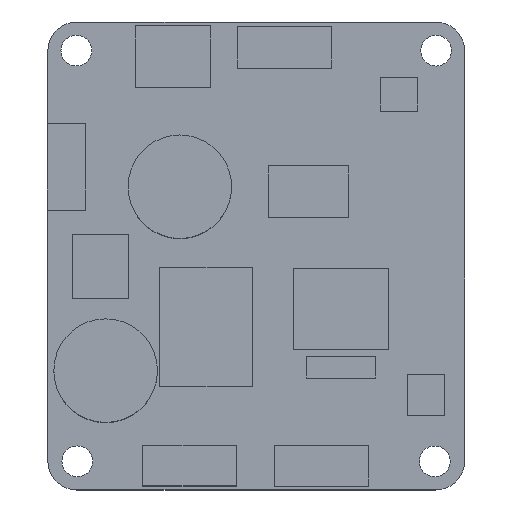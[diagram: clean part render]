
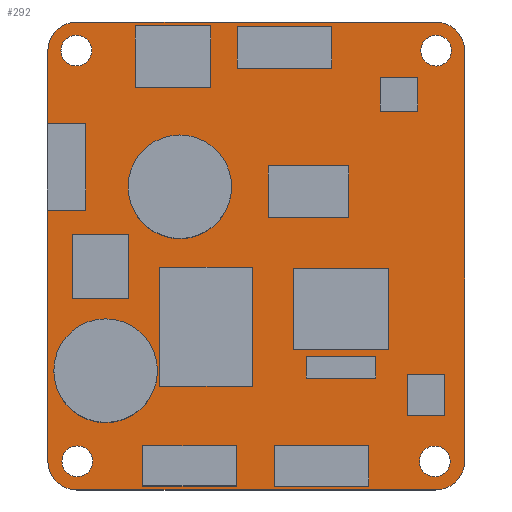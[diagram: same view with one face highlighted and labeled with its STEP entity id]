
A CAD part, top view. The second image highlights one B-rep face of the part: STEP entity #292.
In plain terms, the highlighted planar face has unit normal (0, 0, 1).
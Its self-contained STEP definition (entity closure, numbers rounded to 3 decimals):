
#98 = VERTEX_POINT('',#99);
#99 = CARTESIAN_POINT('',(3.,0.,1.6));
#105 = EDGE_CURVE('',#98,#106,#108,.T.);
#106 = VERTEX_POINT('',#107);
#107 = CARTESIAN_POINT('',(40.307,0.,1.6));
#108 = LINE('',#109,#110);
#109 = CARTESIAN_POINT('',(3.,0.,1.6));
#110 = VECTOR('',#111,1.);
#111 = DIRECTION('',(1.,0.,0.));
#138 = VERTEX_POINT('',#139);
#139 = CARTESIAN_POINT('',(0.,3.,1.6));
#145 = EDGE_CURVE('',#138,#98,#146,.T.);
#146 = CIRCLE('',#147,3.);
#147 = AXIS2_PLACEMENT_3D('',#148,#149,#150);
#148 = CARTESIAN_POINT('',(3.,3.,1.6));
#149 = DIRECTION('',(0.,0.,1.));
#150 = DIRECTION('',(-1.,0.,0.));
#169 = EDGE_CURVE('',#106,#170,#172,.T.);
#170 = VERTEX_POINT('',#171);
#171 = CARTESIAN_POINT('',(43.307,3.,1.6));
#172 = CIRCLE('',#173,3.);
#173 = AXIS2_PLACEMENT_3D('',#174,#175,#176);
#174 = CARTESIAN_POINT('',(40.307,3.,1.6));
#175 = DIRECTION('',(0.,0.,1.));
#176 = DIRECTION('',(0.,-1.,0.));
#292 = ADVANCED_FACE('',(#293,#338,#349,#360,#371),#382,.T.);
#293 = FACE_BOUND('',#294,.T.);
#294 = EDGE_LOOP('',(#295,#296,#297,#305,#314,#322,#331,#337));
#295 = ORIENTED_EDGE('',*,*,#105,.T.);
#296 = ORIENTED_EDGE('',*,*,#169,.T.);
#297 = ORIENTED_EDGE('',*,*,#298,.T.);
#298 = EDGE_CURVE('',#170,#299,#301,.T.);
#299 = VERTEX_POINT('',#300);
#300 = CARTESIAN_POINT('',(43.307,45.641,1.6));
#301 = LINE('',#302,#303);
#302 = CARTESIAN_POINT('',(43.307,3.,1.6));
#303 = VECTOR('',#304,1.);
#304 = DIRECTION('',(0.,1.,0.));
#305 = ORIENTED_EDGE('',*,*,#306,.T.);
#306 = EDGE_CURVE('',#299,#307,#309,.T.);
#307 = VERTEX_POINT('',#308);
#308 = CARTESIAN_POINT('',(40.307,48.641,1.6));
#309 = CIRCLE('',#310,3.);
#310 = AXIS2_PLACEMENT_3D('',#311,#312,#313);
#311 = CARTESIAN_POINT('',(40.307,45.641,1.6));
#312 = DIRECTION('',(-0.,0.,1.));
#313 = DIRECTION('',(1.,0.,0.));
#314 = ORIENTED_EDGE('',*,*,#315,.T.);
#315 = EDGE_CURVE('',#307,#316,#318,.T.);
#316 = VERTEX_POINT('',#317);
#317 = CARTESIAN_POINT('',(3.,48.641,1.6));
#318 = LINE('',#319,#320);
#319 = CARTESIAN_POINT('',(40.307,48.641,1.6));
#320 = VECTOR('',#321,1.);
#321 = DIRECTION('',(-1.,0.,0.));
#322 = ORIENTED_EDGE('',*,*,#323,.T.);
#323 = EDGE_CURVE('',#316,#324,#326,.T.);
#324 = VERTEX_POINT('',#325);
#325 = CARTESIAN_POINT('',(0.,45.641,1.6));
#326 = CIRCLE('',#327,3.);
#327 = AXIS2_PLACEMENT_3D('',#328,#329,#330);
#328 = CARTESIAN_POINT('',(3.,45.641,1.6));
#329 = DIRECTION('',(0.,-0.,1.));
#330 = DIRECTION('',(0.,1.,0.));
#331 = ORIENTED_EDGE('',*,*,#332,.T.);
#332 = EDGE_CURVE('',#324,#138,#333,.T.);
#333 = LINE('',#334,#335);
#334 = CARTESIAN_POINT('',(0.,45.641,1.6));
#335 = VECTOR('',#336,1.);
#336 = DIRECTION('',(0.,-1.,0.));
#337 = ORIENTED_EDGE('',*,*,#145,.T.);
#338 = FACE_BOUND('',#339,.T.);
#339 = EDGE_LOOP('',(#340));
#340 = ORIENTED_EDGE('',*,*,#341,.F.);
#341 = EDGE_CURVE('',#342,#342,#344,.T.);
#342 = VERTEX_POINT('',#343);
#343 = CARTESIAN_POINT('',(4.654,2.981,1.6));
#344 = CIRCLE('',#345,1.6);
#345 = AXIS2_PLACEMENT_3D('',#346,#347,#348);
#346 = CARTESIAN_POINT('',(3.054,2.981,1.6));
#347 = DIRECTION('',(0.,0.,1.));
#348 = DIRECTION('',(1.,0.,-0.));
#349 = FACE_BOUND('',#350,.T.);
#350 = EDGE_LOOP('',(#351));
#351 = ORIENTED_EDGE('',*,*,#352,.F.);
#352 = EDGE_CURVE('',#353,#353,#355,.T.);
#353 = VERTEX_POINT('',#354);
#354 = CARTESIAN_POINT('',(41.807,2.968,1.6));
#355 = CIRCLE('',#356,1.6);
#356 = AXIS2_PLACEMENT_3D('',#357,#358,#359);
#357 = CARTESIAN_POINT('',(40.207,2.968,1.6));
#358 = DIRECTION('',(0.,0.,1.));
#359 = DIRECTION('',(1.,0.,-0.));
#360 = FACE_BOUND('',#361,.T.);
#361 = EDGE_LOOP('',(#362));
#362 = ORIENTED_EDGE('',*,*,#363,.F.);
#363 = EDGE_CURVE('',#364,#364,#366,.T.);
#364 = VERTEX_POINT('',#365);
#365 = CARTESIAN_POINT('',(4.552,45.669,1.6));
#366 = CIRCLE('',#367,1.6);
#367 = AXIS2_PLACEMENT_3D('',#368,#369,#370);
#368 = CARTESIAN_POINT('',(2.952,45.669,1.6));
#369 = DIRECTION('',(0.,0.,1.));
#370 = DIRECTION('',(1.,0.,-0.));
#371 = FACE_BOUND('',#372,.T.);
#372 = EDGE_LOOP('',(#373));
#373 = ORIENTED_EDGE('',*,*,#374,.F.);
#374 = EDGE_CURVE('',#375,#375,#377,.T.);
#375 = VERTEX_POINT('',#376);
#376 = CARTESIAN_POINT('',(41.955,45.665,1.6));
#377 = CIRCLE('',#378,1.6);
#378 = AXIS2_PLACEMENT_3D('',#379,#380,#381);
#379 = CARTESIAN_POINT('',(40.355,45.665,1.6));
#380 = DIRECTION('',(0.,0.,1.));
#381 = DIRECTION('',(1.,0.,-0.));
#382 = PLANE('',#383);
#383 = AXIS2_PLACEMENT_3D('',#384,#385,#386);
#384 = CARTESIAN_POINT('',(21.654,24.321,1.6));
#385 = DIRECTION('',(0.,0.,1.));
#386 = DIRECTION('',(1.,0.,0.));
